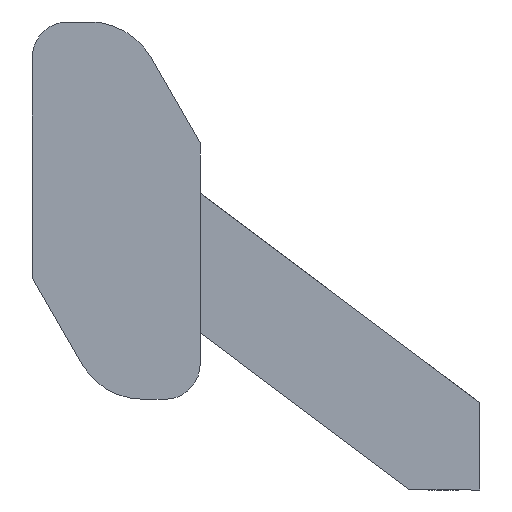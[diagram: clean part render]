
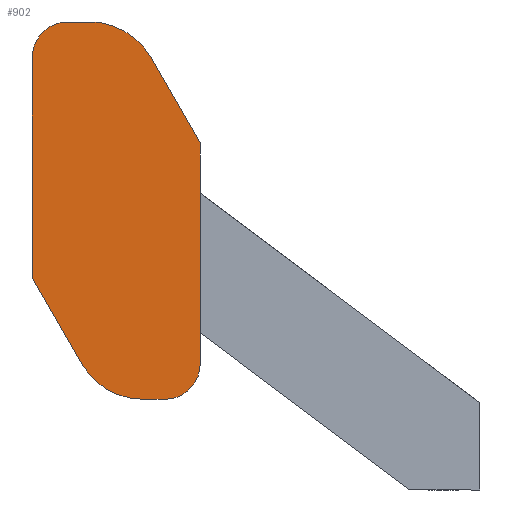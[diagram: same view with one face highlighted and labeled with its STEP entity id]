
A CAD part, left-side view. The second image highlights one B-rep face of the part: STEP entity #902.
In plain terms, the highlighted planar face has unit normal (-1, 0, 0).
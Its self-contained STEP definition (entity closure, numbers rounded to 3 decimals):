
#1 = ORIENTED_EDGE ( 'NONE', *, *, #1603, .F. ) ;
#31 = CARTESIAN_POINT ( 'NONE',  ( -85., 14., 28.823 ) ) ;
#84 = VECTOR ( 'NONE', #475, 1000. ) ;
#102 = CARTESIAN_POINT ( 'NONE',  ( -85., -5., -15.177 ) ) ;
#112 = DIRECTION ( 'NONE',  ( -1., 0., 0. ) ) ;
#129 = VERTEX_POINT ( 'NONE', #786 ) ;
#144 = EDGE_CURVE ( 'NONE', #904, #661, #598, .T. ) ;
#199 = EDGE_CURVE ( 'NONE', #836, #2097, #822, .T. ) ;
#209 = CARTESIAN_POINT ( 'NONE',  ( -85., 5.774, 33.823 ) ) ;
#252 = CARTESIAN_POINT ( 'NONE',  ( -85., -1.774, -20.177 ) ) ;
#265 = DIRECTION ( 'NONE',  ( 0., 1., 0. ) ) ;
#271 = EDGE_CURVE ( 'NONE', #129, #2097, #1816, .T. ) ;
#284 = VECTOR ( 'NONE', #811, 1000. ) ;
#311 = DIRECTION ( 'NONE',  ( 0., 0., 1. ) ) ;
#336 = DIRECTION ( 'NONE',  ( 0., 0., 1. ) ) ;
#416 = VERTEX_POINT ( 'NONE', #209 ) ;
#464 = EDGE_LOOP ( 'NONE', ( #1396, #1034, #1, #2100, #2023, #498, #1835, #1055, #1575, #1004 ) ) ;
#475 = DIRECTION ( 'NONE',  ( 0., 0., 1. ) ) ;
#498 = ORIENTED_EDGE ( 'NONE', *, *, #2072, .F. ) ;
#509 = VERTEX_POINT ( 'NONE', #1904 ) ;
#529 = LINE ( 'NONE', #691, #940 ) ;
#551 = LINE ( 'NONE', #1853, #1901 ) ;
#598 = LINE ( 'NONE', #252, #1644 ) ;
#627 = AXIS2_PLACEMENT_3D ( 'NONE', #102, #112, #1742 ) ;
#640 = DIRECTION ( 'NONE',  ( 0., 0., -1. ) ) ;
#646 = CARTESIAN_POINT ( 'NONE',  ( -85., 5.774, 23.823 ) ) ;
#661 = VERTEX_POINT ( 'NONE', #1634 ) ;
#680 = DIRECTION ( 'NONE',  ( 0., 0.5, 0.866 ) ) ;
#681 = CARTESIAN_POINT ( 'NONE',  ( -85., 14., 33.823 ) ) ;
#691 = CARTESIAN_POINT ( 'NONE',  ( -85., 14., -2.857 ) ) ;
#742 = AXIS2_PLACEMENT_3D ( 'NONE', #860, #1188, #1837 ) ;
#749 = EDGE_CURVE ( 'NONE', #661, #939, #1933, .T. ) ;
#766 = VERTEX_POINT ( 'NONE', #1386 ) ;
#768 = DIRECTION ( 'NONE',  ( 0., 0., -1. ) ) ;
#782 = CARTESIAN_POINT ( 'NONE',  ( -85., -10., 16.502 ) ) ;
#786 = CARTESIAN_POINT ( 'NONE',  ( -85., 9., 33.823 ) ) ;
#811 = DIRECTION ( 'NONE',  ( 0., -0.5, -0.866 ) ) ;
#822 = LINE ( 'NONE', #681, #84 ) ;
#836 = VERTEX_POINT ( 'NONE', #1323 ) ;
#856 = DIRECTION ( 'NONE',  ( 1., 0., 0. ) ) ;
#860 = CARTESIAN_POINT ( 'NONE',  ( -85., -1.774, -10.177 ) ) ;
#886 = CARTESIAN_POINT ( 'NONE',  ( -85., -2.887, 28.823 ) ) ;
#901 = AXIS2_PLACEMENT_3D ( 'NONE', #646, #1906, #311 ) ;
#902 = ADVANCED_FACE ( 'NONE', ( #1017 ), #2000, .F. ) ;
#904 = VERTEX_POINT ( 'NONE', #1483 ) ;
#939 = VERTEX_POINT ( 'NONE', #1539 ) ;
#940 = VECTOR ( 'NONE', #680, 1000. ) ;
#1004 = ORIENTED_EDGE ( 'NONE', *, *, #749, .F. ) ;
#1017 = FACE_OUTER_BOUND ( 'NONE', #464, .T. ) ;
#1034 = ORIENTED_EDGE ( 'NONE', *, *, #1912, .T. ) ;
#1035 = DIRECTION ( 'NONE',  ( 0., -1., 0. ) ) ;
#1044 = CIRCLE ( 'NONE', #901, 10. ) ;
#1055 = ORIENTED_EDGE ( 'NONE', *, *, #199, .F. ) ;
#1065 = AXIS2_PLACEMENT_3D ( 'NONE', #1173, #856, #336 ) ;
#1077 = VECTOR ( 'NONE', #768, 1000. ) ;
#1120 = CARTESIAN_POINT ( 'NONE',  ( -85., 9., 28.823 ) ) ;
#1173 = CARTESIAN_POINT ( 'NONE',  ( -85., 5.774, 23.823 ) ) ;
#1188 = DIRECTION ( 'NONE',  ( 1., 0., 0. ) ) ;
#1208 = CIRCLE ( 'NONE', #627, 5. ) ;
#1287 = EDGE_CURVE ( 'NONE', #939, #836, #529, .T. ) ;
#1323 = CARTESIAN_POINT ( 'NONE',  ( -85., 14., -2.857 ) ) ;
#1386 = CARTESIAN_POINT ( 'NONE',  ( -85., -10., -15.177 ) ) ;
#1396 = ORIENTED_EDGE ( 'NONE', *, *, #144, .F. ) ;
#1429 = LINE ( 'NONE', #1757, #284 ) ;
#1445 = VERTEX_POINT ( 'NONE', #886 ) ;
#1483 = CARTESIAN_POINT ( 'NONE',  ( -85., -5., -20.177 ) ) ;
#1530 = EDGE_CURVE ( 'NONE', #1445, #509, #1429, .T. ) ;
#1536 = EDGE_CURVE ( 'NONE', #416, #1445, #1044, .T. ) ;
#1539 = CARTESIAN_POINT ( 'NONE',  ( -85., 6.887, -15.177 ) ) ;
#1575 = ORIENTED_EDGE ( 'NONE', *, *, #1287, .F. ) ;
#1603 = EDGE_CURVE ( 'NONE', #509, #766, #1776, .T. ) ;
#1634 = CARTESIAN_POINT ( 'NONE',  ( -85., -1.774, -20.177 ) ) ;
#1644 = VECTOR ( 'NONE', #265, 1000. ) ;
#1742 = DIRECTION ( 'NONE',  ( 0., 0., -1. ) ) ;
#1757 = CARTESIAN_POINT ( 'NONE',  ( -85., -2.887, 28.823 ) ) ;
#1776 = LINE ( 'NONE', #782, #1077 ) ;
#1816 = CIRCLE ( 'NONE', #1886, 5. ) ;
#1835 = ORIENTED_EDGE ( 'NONE', *, *, #271, .T. ) ;
#1837 = DIRECTION ( 'NONE',  ( 0., 0., 1. ) ) ;
#1853 = CARTESIAN_POINT ( 'NONE',  ( -85., 14., 33.823 ) ) ;
#1886 = AXIS2_PLACEMENT_3D ( 'NONE', #1120, #2103, #640 ) ;
#1901 = VECTOR ( 'NONE', #1035, 1000. ) ;
#1904 = CARTESIAN_POINT ( 'NONE',  ( -85., -10., 16.502 ) ) ;
#1906 = DIRECTION ( 'NONE',  ( 1., 0., 0. ) ) ;
#1912 = EDGE_CURVE ( 'NONE', #904, #766, #1208, .T. ) ;
#1933 = CIRCLE ( 'NONE', #742, 10. ) ;
#2000 = PLANE ( 'NONE',  #1065 ) ;
#2023 = ORIENTED_EDGE ( 'NONE', *, *, #1536, .F. ) ;
#2072 = EDGE_CURVE ( 'NONE', #129, #416, #551, .T. ) ;
#2097 = VERTEX_POINT ( 'NONE', #31 ) ;
#2100 = ORIENTED_EDGE ( 'NONE', *, *, #1530, .F. ) ;
#2103 = DIRECTION ( 'NONE',  ( -1., 0., 0. ) ) ;
